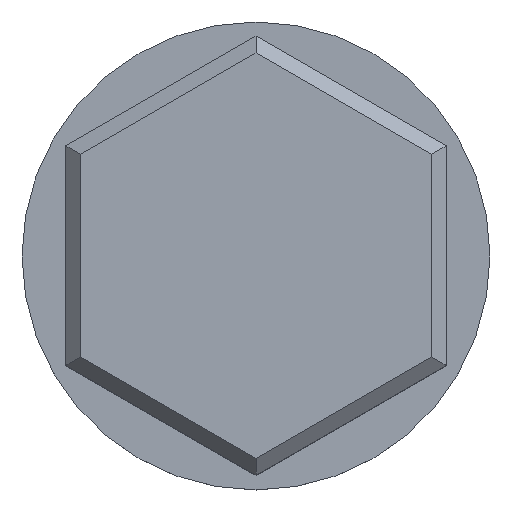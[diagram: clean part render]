
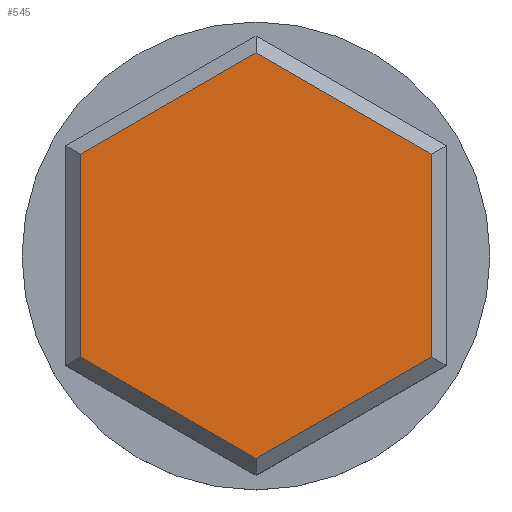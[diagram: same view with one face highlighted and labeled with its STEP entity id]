
A CAD part, top view. The second image highlights one B-rep face of the part: STEP entity #545.
In plain terms, the highlighted planar face has unit normal (0, 0, 1).
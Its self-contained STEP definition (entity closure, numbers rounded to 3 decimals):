
#21 = VERTEX_POINT ( 'NONE', #535 ) ;
#42 = CARTESIAN_POINT ( 'NONE',  ( -381.25, 303.32, -938.4 ) ) ;
#44 = CARTESIAN_POINT ( 'NONE',  ( -381., 296.536, -938.4 ) ) ;
#53 = DIRECTION ( 'NONE',  ( 0.866, -0.5, 0. ) ) ;
#68 = VERTEX_POINT ( 'NONE', #44 ) ;
#69 = PLANE ( 'NONE',  #442 ) ;
#77 = DIRECTION ( 'NONE',  ( -0.866, 0.5, 0. ) ) ;
#90 = DIRECTION ( 'NONE',  ( 0., 1., 0. ) ) ;
#92 = VECTOR ( 'NONE', #77, 1000. ) ;
#109 = VERTEX_POINT ( 'NONE', #355 ) ;
#131 = CARTESIAN_POINT ( 'NONE',  ( -375.25, 307.073, -938.4 ) ) ;
#132 = FACE_OUTER_BOUND ( 'NONE', #560, .T. ) ;
#147 = CARTESIAN_POINT ( 'NONE',  ( -369., 303.753, -938.4 ) ) ;
#153 = EDGE_CURVE ( 'NONE', #281, #642, #498, .T. ) ;
#160 = ORIENTED_EDGE ( 'NONE', *, *, #462, .T. ) ;
#177 = VECTOR ( 'NONE', #553, 1000. ) ;
#190 = ORIENTED_EDGE ( 'NONE', *, *, #643, .T. ) ;
#192 = CARTESIAN_POINT ( 'NONE',  ( -381., 296.247, -938.4 ) ) ;
#199 = VECTOR ( 'NONE', #247, 1000. ) ;
#210 = VECTOR ( 'NONE', #90, 1000. ) ;
#229 = EDGE_CURVE ( 'NONE', #68, #109, #615, .T. ) ;
#241 = VECTOR ( 'NONE', #53, 1000. ) ;
#247 = DIRECTION ( 'NONE',  ( -0.866, -0.5, 0. ) ) ;
#254 = CARTESIAN_POINT ( 'NONE',  ( -374.75, 292.927, -938.4 ) ) ;
#269 = ORIENTED_EDGE ( 'NONE', *, *, #390, .T. ) ;
#273 = ORIENTED_EDGE ( 'NONE', *, *, #444, .T. ) ;
#281 = VERTEX_POINT ( 'NONE', #463 ) ;
#284 = DIRECTION ( 'NONE',  ( 0., -1., 0. ) ) ;
#294 = CARTESIAN_POINT ( 'NONE',  ( -369., 303.464, -938.4 ) ) ;
#340 = LINE ( 'NONE', #192, #517 ) ;
#355 = CARTESIAN_POINT ( 'NONE',  ( -375., 293.072, -938.4 ) ) ;
#385 = CARTESIAN_POINT ( 'NONE',  ( -381., 303.464, -938.4 ) ) ;
#390 = EDGE_CURVE ( 'NONE', #456, #281, #565, .T. ) ;
#391 = LINE ( 'NONE', #591, #177 ) ;
#406 = ORIENTED_EDGE ( 'NONE', *, *, #229, .T. ) ;
#442 = AXIS2_PLACEMENT_3D ( 'NONE', #629, #471, #284 ) ;
#443 = LINE ( 'NONE', #147, #210 ) ;
#444 = EDGE_CURVE ( 'NONE', #21, #456, #443, .T. ) ;
#449 = DIRECTION ( 'NONE',  ( 0., -1., 0. ) ) ;
#456 = VERTEX_POINT ( 'NONE', #294 ) ;
#462 = EDGE_CURVE ( 'NONE', #109, #21, #391, .T. ) ;
#463 = CARTESIAN_POINT ( 'NONE',  ( -375., 306.928, -938.4 ) ) ;
#471 = DIRECTION ( 'NONE',  ( 0., 0., 1. ) ) ;
#498 = LINE ( 'NONE', #42, #199 ) ;
#517 = VECTOR ( 'NONE', #449, 1000. ) ;
#535 = CARTESIAN_POINT ( 'NONE',  ( -369., 296.536, -938.4 ) ) ;
#545 = ADVANCED_FACE ( 'NONE', ( #132 ), #69, .T. ) ;
#553 = DIRECTION ( 'NONE',  ( 0.866, 0.5, 0. ) ) ;
#560 = EDGE_LOOP ( 'NONE', ( #160, #273, #269, #577, #190, #406 ) ) ;
#565 = LINE ( 'NONE', #131, #92 ) ;
#577 = ORIENTED_EDGE ( 'NONE', *, *, #153, .T. ) ;
#591 = CARTESIAN_POINT ( 'NONE',  ( -368.75, 296.68, -938.4 ) ) ;
#615 = LINE ( 'NONE', #254, #241 ) ;
#629 = CARTESIAN_POINT ( 'NONE',  ( -375., 300., -938.4 ) ) ;
#642 = VERTEX_POINT ( 'NONE', #385 ) ;
#643 = EDGE_CURVE ( 'NONE', #642, #68, #340, .T. ) ;
